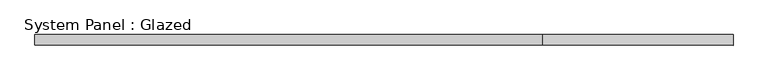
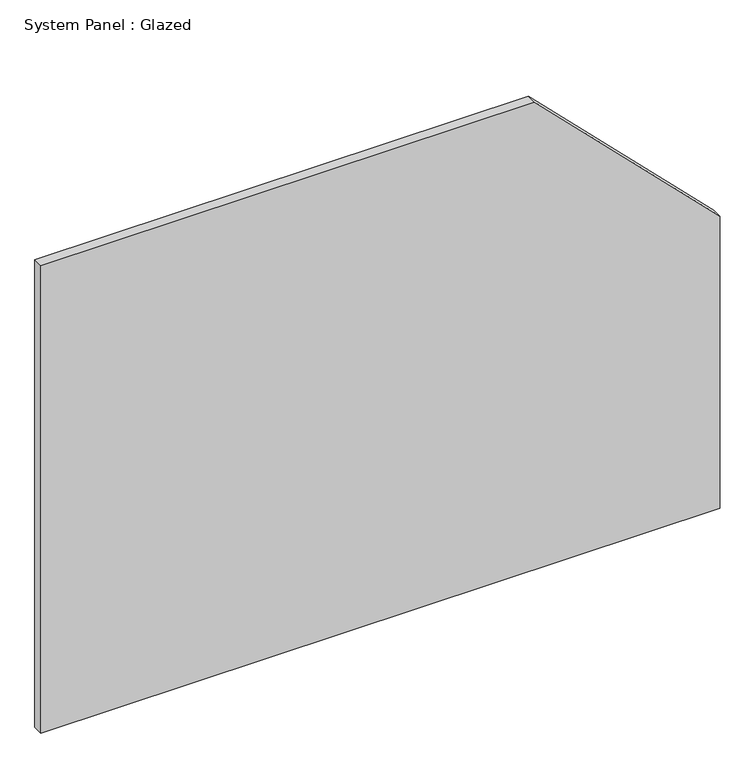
"""IFC4 building model written with IfcOpenShell, lengths in millimetres: plate geometry, System Panel : Glazed."""

import ifcopenshell
import ifcopenshell.guid

model = None  # the IFC model being written
_history = None  # IfcOwnerHistory: only IFC2X3 demands one
_inside = {}  # id of a spatial element -> (the spatial element, [elements in it])
_under = {}  # id of a project, library or spatial element -> (it, [spatial elements below it])
_declared = {}  # id of a project -> (the project, [libraries it declares])
_typed = {}  # id of a type object -> (the type object, [elements of that type])
_made_of = {}  # id of a material, layer set ... -> (it, [elements and type objects made of it])


def new_model(schema):
    """Start an empty IFC model of exactly this schema.

    Asked for "IFC4X3", IfcOpenShell would pick the latest addendum, in which some entities
    have other attributes; the version numbers below select the first issue.
    IFC2X3 requires an IfcOwnerHistory on every rooted entity: one is made here for all.
    """
    global model, _history
    if schema == "IFC4X3":
        model = ifcopenshell.file(schema_version=(4, 3, 0, 0))
    else:
        model = ifcopenshell.file(schema=schema)
    _inside.clear()
    _under.clear()
    _declared.clear()
    _typed.clear()
    _made_of.clear()
    _history = None
    if model.schema == "IFC2X3":
        org = make("IfcOrganization", Name="unknown")
        user = make(
            "IfcPersonAndOrganization",
            ThePerson=make("IfcPerson", FamilyName="unknown"),
            TheOrganization=org,
        )
        app = make(
            "IfcApplication",
            ApplicationDeveloper=org,
            Version="unknown",
            ApplicationFullName="unknown",
            ApplicationIdentifier="unknown",
        )
        _history = make(
            "IfcOwnerHistory",
            OwningUser=user,
            OwningApplication=app,
            ChangeAction="ADDED",
            CreationDate=0,
        )
    return model


def make(cls, **values):
    """One entity of the class cls with the attributes given. An attribute that is None is left unset."""
    return model.create_entity(
        cls, **{name: value for name, value in values.items() if value is not None}
    )


def rooted(cls, **values):
    """An entity with a GlobalId (a new one), such as an element, a storey or a relation."""
    return make(cls, GlobalId=ifcopenshell.guid.new(), OwnerHistory=_history, **values)


def si_unit(unit_type, name, prefix=None):
    """IfcSIUnit, for example si_unit("LENGTHUNIT", "METRE", prefix="MILLI")."""
    return make("IfcSIUnit", UnitType=unit_type, Prefix=prefix, Name=name)


def assignment(units):
    """IfcUnitAssignment: the units of a project."""
    return None if units is None else make("IfcUnitAssignment", Units=units)


def point(xyz):
    """IfcCartesianPoint."""
    return None if xyz is None else make("IfcCartesianPoint", Coordinates=xyz)


def direction(xyz):
    """IfcDirection."""
    return None if xyz is None else make("IfcDirection", DirectionRatios=xyz)


def frame(location, z_axis=None, x_axis=None):
    """IfcAxis2Placement3D, a coordinate frame: its origin and axes. An axis left out is left unset."""
    return make(
        "IfcAxis2Placement3D",
        Location=point(location),
        Axis=direction(z_axis),
        RefDirection=direction(x_axis),
    )


def origin():
    """The frame at (0, 0, 0) with its axes left unset."""
    return frame((0.0, 0.0, 0.0))


def place(relative_to, where):
    """IfcLocalPlacement: puts the frame where relative to a parent placement (None: the world)."""
    return make(
        "IfcLocalPlacement", PlacementRelTo=relative_to, RelativePlacement=where
    )


def context(
    kind, dimensions, precision=None, world=None, true_north=None, identifier=None
):
    """IfcGeometricRepresentationContext, for example the 3D "Model" context."""
    return make(
        "IfcGeometricRepresentationContext",
        ContextIdentifier=identifier,
        ContextType=kind,
        CoordinateSpaceDimension=dimensions,
        Precision=precision,
        WorldCoordinateSystem=world,
        TrueNorth=true_north,
    )


def project(units=None, contexts=None):
    """IfcProject with its units and contexts."""
    return rooted(
        "IfcProject",
        Name="project",
        RepresentationContexts=contexts,
        UnitsInContext=assignment(units),
    )


def spatial(cls, under=None, at=None, **own):
    """A site, building, storey or space (cls), placed at a placement, below another one or the project."""
    s = rooted(cls, ObjectPlacement=at, **own)
    if under is not None:
        _under.setdefault(under.id(), (under, []))[1].append(s)
    return s


def polyline(points):
    """IfcPolyline through the points."""
    return make("IfcPolyline", Points=[point(p) for p in points])


def outline(outer, holes=None, kind="AREA"):
    """IfcArbitraryClosedProfileDef: a profile drawn as a closed curve; with holes, ...WithVoids."""
    if holes is None:
        return make("IfcArbitraryClosedProfileDef", ProfileType=kind, OuterCurve=outer)
    return make(
        "IfcArbitraryProfileDefWithVoids",
        ProfileType=kind,
        OuterCurve=outer,
        InnerCurves=holes,
    )


def extrude(swept, where, along, depth):
    """IfcExtrudedAreaSolid: the profile swept, set in the frame where, extruded along a direction by depth."""
    return make(
        "IfcExtrudedAreaSolid",
        SweptArea=swept,
        Position=where,
        ExtrudedDirection=direction(along),
        Depth=depth,
    )


def shape(context_of_items, identifier, shape_type, items):
    """IfcShapeRepresentation: the items that make up one representation, for example the "Body"."""
    return make(
        "IfcShapeRepresentation",
        ContextOfItems=context_of_items,
        RepresentationIdentifier=identifier,
        RepresentationType=shape_type,
        Items=items,
    )


def source(mapping_origin, context_of_items, identifier, shape_type, items):
    """IfcRepresentationMap: a shape defined once, which mapped items show again and again."""
    return make(
        "IfcRepresentationMap",
        MappingOrigin=mapping_origin,
        MappedRepresentation=shape(context_of_items, identifier, shape_type, items),
    )


def transform(
    local_origin,
    x_axis=None,
    y_axis=None,
    z_axis=None,
    scale=None,
    scale2=None,
    scale3=None,
    uniform=True,
):
    """IfcCartesianTransformationOperator3D, or its non-uniform kind. x_axis, y_axis, z_axis: its Axis1, 2, 3."""
    if uniform:
        return make(
            "IfcCartesianTransformationOperator3D",
            Axis1=direction(x_axis),
            Axis2=direction(y_axis),
            LocalOrigin=point(local_origin),
            Scale=scale,
            Axis3=direction(z_axis),
        )
    return make(
        "IfcCartesianTransformationOperator3DnonUniform",
        Axis1=direction(x_axis),
        Axis2=direction(y_axis),
        LocalOrigin=point(local_origin),
        Scale=scale,
        Axis3=direction(z_axis),
        Scale2=scale2,
        Scale3=scale3,
    )


def mapped(mapping_source, mapping_target):
    """IfcMappedItem: shows the shape of a source again, moved by a transform."""
    return make(
        "IfcMappedItem", MappingSource=mapping_source, MappingTarget=mapping_target
    )


def made_of(thing, what):
    """Note that an element or type object is made of a material, layer set ...; save() writes the relation."""
    if what is not None:
        _made_of.setdefault(what.id(), (what, []))[1].append(thing)
    return thing


def element(
    cls,
    number,
    at=None,
    inside=None,
    cuts=None,
    type_object=None,
    material=None,
    context=None,
    identifier="Body",
    shape_type=None,
    held_by="IfcProductDefinitionShape",
    body=None,
    shapes=None,
    **own,
):
    """One element of the class cls, such as IfcWall. Its Tag is "e" and its number.

    at: its placement. inside: the storey or other place that contains it. cuts: it is an
    opening in that element (IfcRelVoidsElement). A single representation is given by context,
    identifier, shape_type and body (its items); several are given by shapes. held_by: the class
    of the entity that holds the representations. save() writes the other relations.
    """
    e = rooted(cls, Tag="e%d" % number, ObjectPlacement=at, **own)
    if body is not None:
        shapes = [shape(context, identifier, shape_type, body)]
    if shapes is not None:
        e.Representation = make(held_by, Representations=shapes)
    if inside is not None:
        _inside.setdefault(inside.id(), (inside, []))[1].append(e)
    if cuts is not None:
        rooted(
            "IfcRelVoidsElement", RelatingBuildingElement=cuts, RelatedOpeningElement=e
        )
    if type_object is not None:
        _typed.setdefault(type_object.id(), (type_object, []))[1].append(e)
    return made_of(e, material)


def aggregate(whole, parts):
    """IfcRelAggregates: a whole, such as a stair, and the parts it consists of."""
    return rooted("IfcRelAggregates", RelatingObject=whole, RelatedObjects=parts)


def save(model, path):
    """Write the relations noted so far, then the file.

    IfcRelAggregates (storeys below a building ...), IfcRelContainedInSpatialStructure (elements
    in a storey), IfcRelDefinesByType, IfcRelAssociatesMaterial and IfcRelDeclares: one each for
    every whole, place, type object, material and project.
    """
    for whole, parts in _under.values():
        aggregate(whole, parts)
    for where, things in _inside.values():
        rooted(
            "IfcRelContainedInSpatialStructure",
            RelatedElements=things,
            RelatingStructure=where,
        )
    for kind, things in _typed.values():
        rooted("IfcRelDefinesByType", RelatedObjects=things, RelatingType=kind)
    for what, things in _made_of.values():
        rooted("IfcRelAssociatesMaterial", RelatedObjects=things, RelatingMaterial=what)
    for by, libraries in _declared.values():
        rooted("IfcRelDeclares", RelatingContext=by, RelatedDefinitions=libraries)
    model.write(path)


def system_panel_glazed_cb63a45b(model_context):
    return source(origin(), model_context, "Body", "SweptSolid", [
        extrude(outline(polyline([(0.0, -825.0), (0.0, 825.0), (750.0, 825.0), (1200.0, 375.0), (1200.0, -825.0), (0.0, -825.0)])), frame((0.0, -49.5, 0.0), z_axis=(0.0, 1.0, 0.0), x_axis=(0.0, 0.0, 1.0)), (0.0, 0.0, 1.0), 25.0),
    ])


if __name__ == "__main__":
    model = new_model("IFC4")
    model_context = context("Model", 3, world=origin())
    ifc_project = project(units=[si_unit("LENGTHUNIT", "METRE", prefix="MILLI")], contexts=[model_context])
    site = spatial("IfcSite", under=ifc_project)
    building = spatial("IfcBuilding", under=site)
    placement = place(None, origin())
    system_panel_glazed_shape = system_panel_glazed_cb63a45b(model_context)
    element("IfcPlate", 1, ObjectType="System Panel : Glazed", at=placement, inside=building, context=model_context, shape_type="MappedRepresentation", body=[
        mapped(system_panel_glazed_shape, transform((0.0, 0.0, 0.0), x_axis=(1.0, 0.0, 0.0), y_axis=(0.0, 1.0, 0.0), z_axis=(0.0, 0.0, 1.0))),
    ])
    save(model, "model.ifc")
